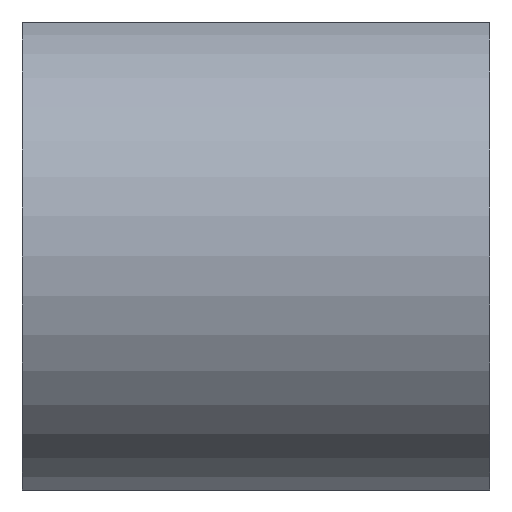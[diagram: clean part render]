
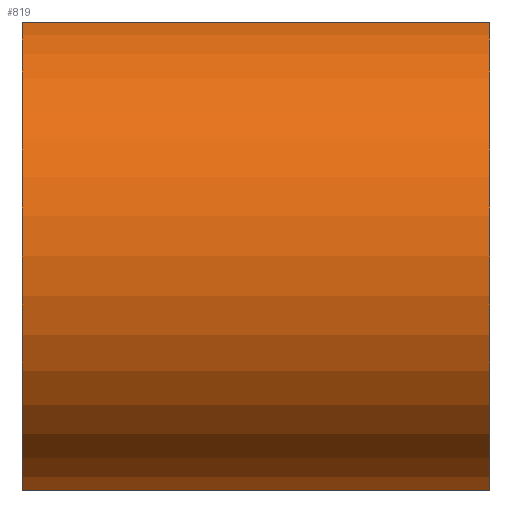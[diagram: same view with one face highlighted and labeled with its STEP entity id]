
A CAD part, front view. The second image highlights one B-rep face of the part: STEP entity #819.
In plain terms, the highlighted cylindrical face has radius 17 mm (diameter 34 mm), a partial arc.
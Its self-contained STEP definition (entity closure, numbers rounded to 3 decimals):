
#5 = CARTESIAN_POINT ( 'NONE',  ( -16.5, -34., 0. ) ) ;
#84 = CARTESIAN_POINT ( 'NONE',  ( 16.5, -38.093, -16.5 ) ) ;
#106 = EDGE_CURVE ( 'NONE', #281, #1133, #1101, .T. ) ;
#107 = DIRECTION ( 'NONE',  ( 1., 0., 0. ) ) ;
#116 = DIRECTION ( 'NONE',  ( 1., 0., 0. ) ) ;
#150 = DIRECTION ( 'NONE',  ( 0., 0., -1. ) ) ;
#175 = DIRECTION ( 'NONE',  ( 0., 0., -1. ) ) ;
#206 = CARTESIAN_POINT ( 'NONE',  ( 16.5, -34., 0. ) ) ;
#209 = ORIENTED_EDGE ( 'NONE', *, *, #106, .T. ) ;
#281 = VERTEX_POINT ( 'NONE', #986 ) ;
#284 = DIRECTION ( 'NONE',  ( -1., 0., 0. ) ) ;
#300 = VERTEX_POINT ( 'NONE', #84 ) ;
#364 = CARTESIAN_POINT ( 'NONE',  ( 16.5, -38.093, -16.5 ) ) ;
#405 = CIRCLE ( 'NONE', #1071, 17. ) ;
#435 = DIRECTION ( 'NONE',  ( -1., 0., 0. ) ) ;
#484 = CIRCLE ( 'NONE', #1147, 17. ) ;
#528 = VERTEX_POINT ( 'NONE', #1008 ) ;
#530 = EDGE_CURVE ( 'NONE', #528, #300, #928, .T. ) ;
#575 = ORIENTED_EDGE ( 'NONE', *, *, #943, .T. ) ;
#633 = ORIENTED_EDGE ( 'NONE', *, *, #752, .F. ) ;
#677 = CARTESIAN_POINT ( 'NONE',  ( -16.5, -38.093, 16.5 ) ) ;
#752 = EDGE_CURVE ( 'NONE', #281, #300, #405, .T. ) ;
#792 = FACE_OUTER_BOUND ( 'NONE', #830, .T. ) ;
#798 = VECTOR ( 'NONE', #284, 1000. ) ;
#819 = ADVANCED_FACE ( 'NONE', ( #792 ), #968, .T. ) ;
#830 = EDGE_LOOP ( 'NONE', ( #633, #209, #575, #1020 ) ) ;
#835 = CARTESIAN_POINT ( 'NONE',  ( 16.5, -38.093, 16.5 ) ) ;
#839 = AXIS2_PLACEMENT_3D ( 'NONE', #1077, #435, #963 ) ;
#921 = DIRECTION ( 'NONE',  ( 1., 0., 0. ) ) ;
#928 = LINE ( 'NONE', #364, #1108 ) ;
#943 = EDGE_CURVE ( 'NONE', #1133, #528, #484, .T. ) ;
#963 = DIRECTION ( 'NONE',  ( 0., 0., 1. ) ) ;
#968 = CYLINDRICAL_SURFACE ( 'NONE', #839, 17. ) ;
#986 = CARTESIAN_POINT ( 'NONE',  ( 16.5, -38.093, 16.5 ) ) ;
#1008 = CARTESIAN_POINT ( 'NONE',  ( -16.5, -38.093, -16.5 ) ) ;
#1020 = ORIENTED_EDGE ( 'NONE', *, *, #530, .T. ) ;
#1071 = AXIS2_PLACEMENT_3D ( 'NONE', #206, #116, #150 ) ;
#1077 = CARTESIAN_POINT ( 'NONE',  ( 16.5, -34., 0. ) ) ;
#1101 = LINE ( 'NONE', #835, #798 ) ;
#1108 = VECTOR ( 'NONE', #107, 1000. ) ;
#1133 = VERTEX_POINT ( 'NONE', #677 ) ;
#1147 = AXIS2_PLACEMENT_3D ( 'NONE', #5, #921, #175 ) ;
